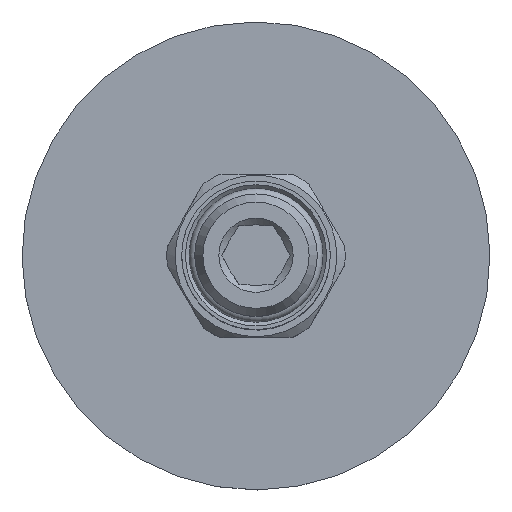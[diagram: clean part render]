
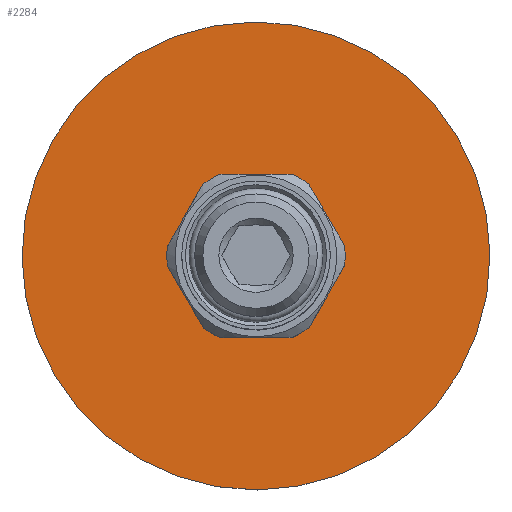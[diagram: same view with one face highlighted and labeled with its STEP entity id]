
A CAD part, top view. The second image highlights one B-rep face of the part: STEP entity #2284.
In plain terms, the highlighted planar face has unit normal (0, 0, 1).
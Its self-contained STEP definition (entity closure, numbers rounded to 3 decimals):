
#136=LINE('',#3439,#252);
#137=LINE('',#3444,#253);
#138=LINE('',#3448,#254);
#139=LINE('',#3452,#255);
#140=LINE('',#3456,#256);
#141=LINE('',#3460,#257);
#252=VECTOR('',#2748,1000.);
#253=VECTOR('',#2751,1000.);
#254=VECTOR('',#2754,1000.);
#255=VECTOR('',#2757,1000.);
#256=VECTOR('',#2760,1000.);
#257=VECTOR('',#2763,1000.);
#407=PLANE('',#2449);
#483=ORIENTED_EDGE('',*,*,#1149,.F.);
#484=ORIENTED_EDGE('',*,*,#1150,.T.);
#485=ORIENTED_EDGE('',*,*,#1151,.F.);
#486=ORIENTED_EDGE('',*,*,#1152,.T.);
#487=ORIENTED_EDGE('',*,*,#1153,.F.);
#488=ORIENTED_EDGE('',*,*,#1154,.T.);
#489=ORIENTED_EDGE('',*,*,#1155,.F.);
#490=ORIENTED_EDGE('',*,*,#1156,.T.);
#491=ORIENTED_EDGE('',*,*,#1157,.F.);
#492=ORIENTED_EDGE('',*,*,#1158,.T.);
#493=ORIENTED_EDGE('',*,*,#1159,.F.);
#494=ORIENTED_EDGE('',*,*,#1160,.T.);
#495=ORIENTED_EDGE('',*,*,#1148,.F.);
#1148=EDGE_CURVE('',#1482,#1482,#1722,.F.);
#1149=EDGE_CURVE('',#1483,#1484,#136,.T.);
#1150=EDGE_CURVE('',#1483,#1485,#1723,.T.);
#1151=EDGE_CURVE('',#1486,#1485,#137,.T.);
#1152=EDGE_CURVE('',#1486,#1487,#1724,.T.);
#1153=EDGE_CURVE('',#1488,#1487,#138,.T.);
#1154=EDGE_CURVE('',#1488,#1489,#1725,.T.);
#1155=EDGE_CURVE('',#1490,#1489,#139,.T.);
#1156=EDGE_CURVE('',#1490,#1491,#1726,.T.);
#1157=EDGE_CURVE('',#1492,#1491,#140,.T.);
#1158=EDGE_CURVE('',#1492,#1493,#1727,.T.);
#1159=EDGE_CURVE('',#1494,#1493,#141,.T.);
#1160=EDGE_CURVE('',#1494,#1484,#1728,.T.);
#1482=VERTEX_POINT('',#3437);
#1483=VERTEX_POINT('',#3440);
#1484=VERTEX_POINT('',#3441);
#1485=VERTEX_POINT('',#3443);
#1486=VERTEX_POINT('',#3445);
#1487=VERTEX_POINT('',#3447);
#1488=VERTEX_POINT('',#3449);
#1489=VERTEX_POINT('',#3451);
#1490=VERTEX_POINT('',#3453);
#1491=VERTEX_POINT('',#3455);
#1492=VERTEX_POINT('',#3457);
#1493=VERTEX_POINT('',#3459);
#1494=VERTEX_POINT('',#3461);
#1722=CIRCLE('',#2448,31.5);
#1723=CIRCLE('',#2450,12.);
#1724=CIRCLE('',#2451,12.);
#1725=CIRCLE('',#2452,12.);
#1726=CIRCLE('',#2453,12.);
#1727=CIRCLE('',#2454,12.);
#1728=CIRCLE('',#2455,12.);
#1865=EDGE_LOOP('',(#483,#484,#485,#486,#487,#488,#489,#490,#491,#492,#493,
#494));
#1866=EDGE_LOOP('',(#495));
#2075=FACE_BOUND('',#1865,.T.);
#2076=FACE_BOUND('',#1866,.T.);
#2284=ADVANCED_FACE('',(#2075,#2076),#407,.T.);
#2448=AXIS2_PLACEMENT_3D('',#3436,#2744,#2745);
#2449=AXIS2_PLACEMENT_3D('',#3438,#2746,#2747);
#2450=AXIS2_PLACEMENT_3D('',#3442,#2749,#2750);
#2451=AXIS2_PLACEMENT_3D('',#3446,#2752,#2753);
#2452=AXIS2_PLACEMENT_3D('',#3450,#2755,#2756);
#2453=AXIS2_PLACEMENT_3D('',#3454,#2758,#2759);
#2454=AXIS2_PLACEMENT_3D('',#3458,#2761,#2762);
#2455=AXIS2_PLACEMENT_3D('',#3462,#2764,#2765);
#2744=DIRECTION('',(0.,0.,1.));
#2745=DIRECTION('',(-0.006,1.,0.));
#2746=DIRECTION('',(0.,0.,1.));
#2747=DIRECTION('',(-0.006,1.,0.));
#2748=DIRECTION('',(-1.,-0.006,0.));
#2749=DIRECTION('',(0.,0.,-1.));
#2750=DIRECTION('',(-0.006,1.,0.));
#2751=DIRECTION('',(-0.505,0.863,0.));
#2752=DIRECTION('',(0.,0.,-1.));
#2753=DIRECTION('',(-0.006,1.,0.));
#2754=DIRECTION('',(0.495,0.869,0.));
#2755=DIRECTION('',(0.,0.,-1.));
#2756=DIRECTION('',(-0.006,1.,0.));
#2757=DIRECTION('',(1.,0.006,0.));
#2758=DIRECTION('',(0.,0.,-1.));
#2759=DIRECTION('',(-0.006,1.,0.));
#2760=DIRECTION('',(0.505,-0.863,0.));
#2761=DIRECTION('',(0.,0.,-1.));
#2762=DIRECTION('',(-0.006,1.,0.));
#2763=DIRECTION('',(-0.495,-0.869,0.));
#2764=DIRECTION('',(0.,0.,-1.));
#2765=DIRECTION('',(-0.006,1.,0.));
#3436=CARTESIAN_POINT('',(0.,0.,-59.5));
#3437=CARTESIAN_POINT('',(-0.178,31.499,-59.5));
#3438=CARTESIAN_POINT('',(-4.779,2.723,-59.5));
#3439=CARTESIAN_POINT('',(6.289,11.036,-59.5));
#3440=CARTESIAN_POINT('',(4.734,11.027,-59.5));
#3441=CARTESIAN_POINT('',(-4.858,10.973,-59.5));
#3442=CARTESIAN_POINT('',(0.,0.,-59.5));
#3443=CARTESIAN_POINT('',(7.074,9.693,-59.5));
#3444=CARTESIAN_POINT('',(12.702,0.072,-59.5));
#3445=CARTESIAN_POINT('',(11.916,1.414,-59.5));
#3446=CARTESIAN_POINT('',(0.,0.,-59.5));
#3447=CARTESIAN_POINT('',(11.932,-1.279,-59.5));
#3448=CARTESIAN_POINT('',(6.413,-10.964,-59.5));
#3449=CARTESIAN_POINT('',(7.183,-9.613,-59.5));
#3450=CARTESIAN_POINT('',(0.,0.,-59.5));
#3451=CARTESIAN_POINT('',(4.858,-10.973,-59.5));
#3452=CARTESIAN_POINT('',(-6.289,-11.036,-59.5));
#3453=CARTESIAN_POINT('',(-4.734,-11.027,-59.5));
#3454=CARTESIAN_POINT('',(0.,0.,-59.5));
#3455=CARTESIAN_POINT('',(-7.074,-9.693,-59.5));
#3456=CARTESIAN_POINT('',(-12.702,-0.072,-59.5));
#3457=CARTESIAN_POINT('',(-11.916,-1.414,-59.5));
#3458=CARTESIAN_POINT('',(0.,0.,-59.5));
#3459=CARTESIAN_POINT('',(-11.932,1.279,-59.5));
#3460=CARTESIAN_POINT('',(-6.413,10.964,-59.5));
#3461=CARTESIAN_POINT('',(-7.183,9.613,-59.5));
#3462=CARTESIAN_POINT('',(0.,0.,-59.5));
